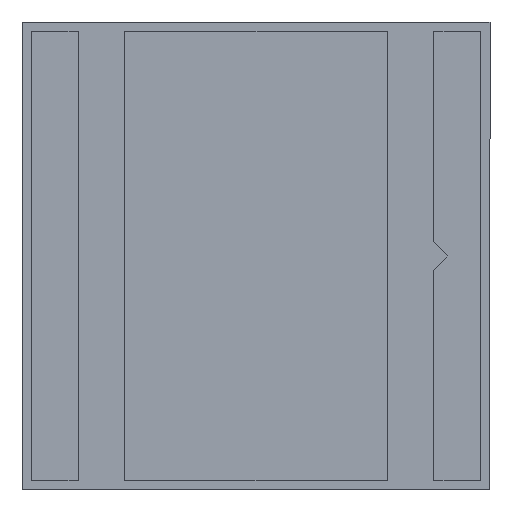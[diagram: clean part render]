
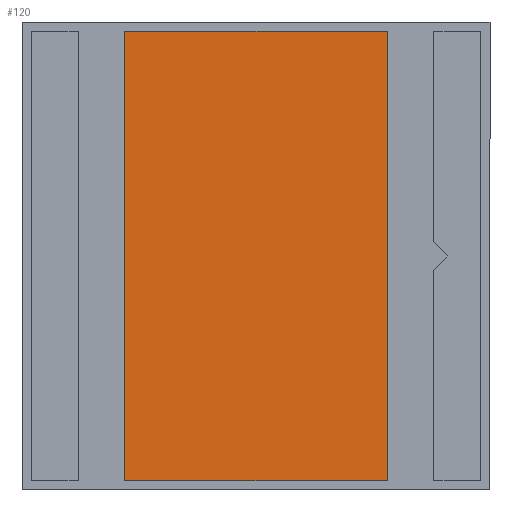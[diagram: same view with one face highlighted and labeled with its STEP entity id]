
A CAD part, front view. The second image highlights one B-rep face of the part: STEP entity #120.
In plain terms, the highlighted planar face has unit normal (0, -1, 0).
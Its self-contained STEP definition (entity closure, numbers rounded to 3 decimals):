
#14 = VERTEX_POINT ( 'NONE', #613 ) ;
#22 = CARTESIAN_POINT ( 'NONE',  ( 1.4, -0.065, 2.4 ) ) ;
#53 = CARTESIAN_POINT ( 'NONE',  ( -1.4, -0.065, -2.4 ) ) ;
#77 = CARTESIAN_POINT ( 'NONE',  ( -1.4, -0.065, 2.4 ) ) ;
#80 = AXIS2_PLACEMENT_3D ( 'NONE', #855, #779, #347 ) ;
#120 = ADVANCED_FACE ( 'NONE', ( #949 ), #787, .T. ) ;
#200 = DIRECTION ( 'NONE',  ( 0., 0., 1. ) ) ;
#214 = ORIENTED_EDGE ( 'NONE', *, *, #570, .T. ) ;
#257 = EDGE_CURVE ( 'NONE', #813, #743, #705, .T. ) ;
#274 = EDGE_CURVE ( 'NONE', #993, #14, #642, .T. ) ;
#289 = VECTOR ( 'NONE', #430, 1000. ) ;
#310 = EDGE_CURVE ( 'NONE', #14, #813, #834, .T. ) ;
#328 = VECTOR ( 'NONE', #723, 1000. ) ;
#347 = DIRECTION ( 'NONE',  ( 0., 0., -1. ) ) ;
#405 = ORIENTED_EDGE ( 'NONE', *, *, #310, .T. ) ;
#412 = LINE ( 'NONE', #77, #495 ) ;
#430 = DIRECTION ( 'NONE',  ( 1., 0., 0. ) ) ;
#495 = VECTOR ( 'NONE', #614, 1000. ) ;
#504 = CARTESIAN_POINT ( 'NONE',  ( -1.4, -0.065, 2.4 ) ) ;
#510 = CARTESIAN_POINT ( 'NONE',  ( -1.4, -0.065, -2.4 ) ) ;
#538 = ORIENTED_EDGE ( 'NONE', *, *, #274, .T. ) ;
#570 = EDGE_CURVE ( 'NONE', #743, #993, #412, .T. ) ;
#613 = CARTESIAN_POINT ( 'NONE',  ( 1.4, -0.065, -2.4 ) ) ;
#614 = DIRECTION ( 'NONE',  ( 0., 0., -1. ) ) ;
#629 = VECTOR ( 'NONE', #200, 1000. ) ;
#642 = LINE ( 'NONE', #510, #289 ) ;
#705 = LINE ( 'NONE', #726, #328 ) ;
#723 = DIRECTION ( 'NONE',  ( -1., 0., 0. ) ) ;
#726 = CARTESIAN_POINT ( 'NONE',  ( 1.4, -0.065, 2.4 ) ) ;
#743 = VERTEX_POINT ( 'NONE', #504 ) ;
#779 = DIRECTION ( 'NONE',  ( 0., -1., 0. ) ) ;
#787 = PLANE ( 'NONE',  #80 ) ;
#794 = EDGE_LOOP ( 'NONE', ( #914, #214, #538, #405 ) ) ;
#813 = VERTEX_POINT ( 'NONE', #967 ) ;
#834 = LINE ( 'NONE', #22, #629 ) ;
#855 = CARTESIAN_POINT ( 'NONE',  ( 0., -0.065, 0. ) ) ;
#914 = ORIENTED_EDGE ( 'NONE', *, *, #257, .T. ) ;
#949 = FACE_OUTER_BOUND ( 'NONE', #794, .T. ) ;
#967 = CARTESIAN_POINT ( 'NONE',  ( 1.4, -0.065, 2.4 ) ) ;
#993 = VERTEX_POINT ( 'NONE', #53 ) ;
